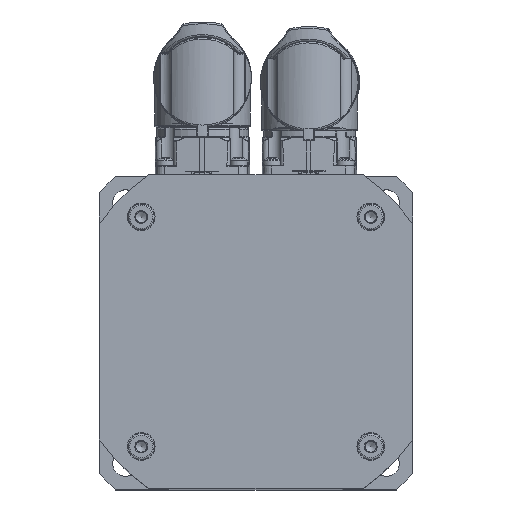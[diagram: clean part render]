
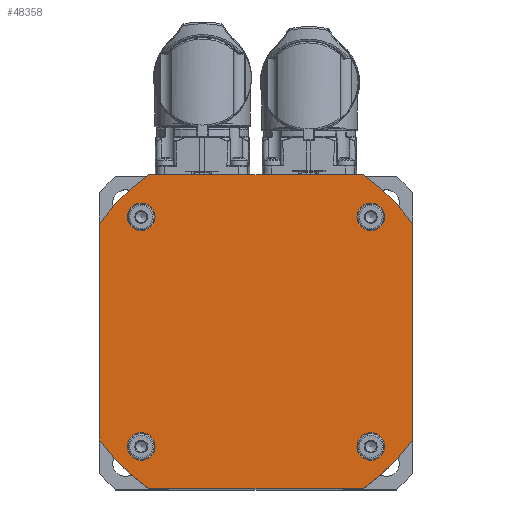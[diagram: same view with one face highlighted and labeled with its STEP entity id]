
A CAD part, top view. The second image highlights one B-rep face of the part: STEP entity #48358.
In plain terms, the highlighted planar face has unit normal (0, 0, 1).
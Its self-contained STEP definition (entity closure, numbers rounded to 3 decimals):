
#7391=LINE('',#70137,#9156);
#7397=LINE('',#70172,#9162);
#7400=LINE('',#70180,#9165);
#7404=LINE('',#70188,#9169);
#9156=VECTOR('',#57224,58.172);
#9162=VECTOR('',#57268,58.172);
#9165=VECTOR('',#57277,58.172);
#9169=VECTOR('',#57287,58.172);
#10887=PLANE('',#51540);
#11491=FACE_BOUND('',#15039,.T.);
#11492=FACE_BOUND('',#15040,.T.);
#11493=FACE_BOUND('',#15041,.T.);
#11494=FACE_BOUND('',#15042,.T.);
#11495=FACE_BOUND('',#15043,.T.);
#15039=EDGE_LOOP('',(#33265));
#15040=EDGE_LOOP('',(#33266));
#15041=EDGE_LOOP('',(#33267));
#15042=EDGE_LOOP('',(#33268));
#15043=EDGE_LOOP('',(#33269,#33270,#33271,#33272,#33273,#33274,#33275,#33276));
#18445=CIRCLE('',#51513,51.5);
#18446=CIRCLE('',#51516,3.75);
#18448=CIRCLE('',#51520,3.75);
#18450=CIRCLE('',#51524,3.75);
#18452=CIRCLE('',#51528,3.75);
#18454=CIRCLE('',#51532,51.5);
#18455=CIRCLE('',#51535,51.5);
#18456=CIRCLE('',#51538,51.5);
#21231=VERTEX_POINT('',#70130);
#21232=VERTEX_POINT('',#70132);
#21233=VERTEX_POINT('',#70136);
#21234=VERTEX_POINT('',#70141);
#21236=VERTEX_POINT('',#70147);
#21238=VERTEX_POINT('',#70153);
#21240=VERTEX_POINT('',#70159);
#21242=VERTEX_POINT('',#70165);
#21243=VERTEX_POINT('',#70167);
#21244=VERTEX_POINT('',#70174);
#21245=VERTEX_POINT('',#70179);
#21246=VERTEX_POINT('',#70183);
#25813=EDGE_CURVE('',#21232,#21231,#18445,.T.);
#25815=EDGE_CURVE('',#21233,#21232,#7391,.T.);
#25818=EDGE_CURVE('',#21234,#21234,#18446,.T.);
#25820=EDGE_CURVE('',#21236,#21236,#18448,.T.);
#25822=EDGE_CURVE('',#21238,#21238,#18450,.T.);
#25824=EDGE_CURVE('',#21240,#21240,#18452,.T.);
#25827=EDGE_CURVE('',#21243,#21242,#18454,.T.);
#25830=EDGE_CURVE('',#21231,#21243,#7397,.T.);
#25831=EDGE_CURVE('',#21244,#21233,#18455,.T.);
#25834=EDGE_CURVE('',#21245,#21244,#7400,.T.);
#25836=EDGE_CURVE('',#21246,#21245,#18456,.T.);
#25839=EDGE_CURVE('',#21242,#21246,#7404,.T.);
#33265=ORIENTED_EDGE('',*,*,#25818,.T.);
#33266=ORIENTED_EDGE('',*,*,#25820,.T.);
#33267=ORIENTED_EDGE('',*,*,#25822,.T.);
#33268=ORIENTED_EDGE('',*,*,#25824,.T.);
#33269=ORIENTED_EDGE('',*,*,#25839,.T.);
#33270=ORIENTED_EDGE('',*,*,#25836,.T.);
#33271=ORIENTED_EDGE('',*,*,#25834,.T.);
#33272=ORIENTED_EDGE('',*,*,#25831,.T.);
#33273=ORIENTED_EDGE('',*,*,#25815,.T.);
#33274=ORIENTED_EDGE('',*,*,#25813,.T.);
#33275=ORIENTED_EDGE('',*,*,#25830,.T.);
#33276=ORIENTED_EDGE('',*,*,#25827,.T.);
#48358=ADVANCED_FACE('',(#11491,#11492,#11493,#11494,#11495),#10887,.T.);
#51513=AXIS2_PLACEMENT_3D('',#70133,#57219,#57220);
#51516=AXIS2_PLACEMENT_3D('',#70142,#57229,#57230);
#51520=AXIS2_PLACEMENT_3D('',#70148,#57237,#57238);
#51524=AXIS2_PLACEMENT_3D('',#70154,#57245,#57246);
#51528=AXIS2_PLACEMENT_3D('',#70160,#57253,#57254);
#51532=AXIS2_PLACEMENT_3D('',#70168,#57262,#57263);
#51535=AXIS2_PLACEMENT_3D('',#70175,#57271,#57272);
#51538=AXIS2_PLACEMENT_3D('',#70184,#57281,#57282);
#51540=AXIS2_PLACEMENT_3D('',#70189,#57288,#57289);
#57219=DIRECTION('center_axis',(0.,0.,1.));
#57220=DIRECTION('ref_axis',(0.565,-0.825,0.));
#57224=DIRECTION('',(1.,0.,0.));
#57229=DIRECTION('center_axis',(0.,0.,-1.));
#57230=DIRECTION('ref_axis',(0.,-1.,0.));
#57237=DIRECTION('center_axis',(0.,0.,-1.));
#57238=DIRECTION('ref_axis',(-1.,0.,0.));
#57245=DIRECTION('center_axis',(0.,0.,-1.));
#57246=DIRECTION('ref_axis',(0.,1.,0.));
#57253=DIRECTION('center_axis',(0.,0.,-1.));
#57254=DIRECTION('ref_axis',(1.,0.,0.));
#57262=DIRECTION('center_axis',(0.,0.,1.));
#57263=DIRECTION('ref_axis',(0.825,0.565,0.));
#57268=DIRECTION('',(0.,1.,0.));
#57271=DIRECTION('center_axis',(0.,0.,1.));
#57272=DIRECTION('ref_axis',(-0.825,-0.565,0.));
#57277=DIRECTION('',(0.,-1.,0.));
#57281=DIRECTION('center_axis',(0.,0.,1.));
#57282=DIRECTION('ref_axis',(-0.565,0.825,0.));
#57287=DIRECTION('',(-1.,0.,0.));
#57288=DIRECTION('center_axis',(0.,0.,1.));
#57289=DIRECTION('ref_axis',(1.,0.,0.));
#70130=CARTESIAN_POINT('',(42.5,-29.086,237.6));
#70132=CARTESIAN_POINT('',(29.086,-42.5,237.6));
#70133=CARTESIAN_POINT('Origin',(0.,0.,237.6));
#70136=CARTESIAN_POINT('',(-29.086,-42.5,237.6));
#70137=CARTESIAN_POINT('',(-42.5,-42.5,237.6));
#70141=CARTESIAN_POINT('',(31.113,-34.863,237.6));
#70142=CARTESIAN_POINT('Origin',(31.113,-31.113,237.6));
#70147=CARTESIAN_POINT('',(-34.863,-31.113,237.6));
#70148=CARTESIAN_POINT('Origin',(-31.113,-31.113,237.6));
#70153=CARTESIAN_POINT('',(-31.113,34.863,237.6));
#70154=CARTESIAN_POINT('Origin',(-31.113,31.113,237.6));
#70159=CARTESIAN_POINT('',(34.863,31.113,237.6));
#70160=CARTESIAN_POINT('Origin',(31.113,31.113,237.6));
#70165=CARTESIAN_POINT('',(29.086,42.5,237.6));
#70167=CARTESIAN_POINT('',(42.5,29.086,237.6));
#70168=CARTESIAN_POINT('Origin',(0.,0.,237.6));
#70172=CARTESIAN_POINT('',(42.5,-42.5,237.6));
#70174=CARTESIAN_POINT('',(-42.5,-29.086,237.6));
#70175=CARTESIAN_POINT('Origin',(0.,0.,237.6));
#70179=CARTESIAN_POINT('',(-42.5,29.086,237.6));
#70180=CARTESIAN_POINT('',(-42.5,42.5,237.6));
#70183=CARTESIAN_POINT('',(-29.086,42.5,237.6));
#70184=CARTESIAN_POINT('Origin',(0.,0.,237.6));
#70188=CARTESIAN_POINT('',(42.5,42.5,237.6));
#70189=CARTESIAN_POINT('Origin',(0.,0.,
237.6));
